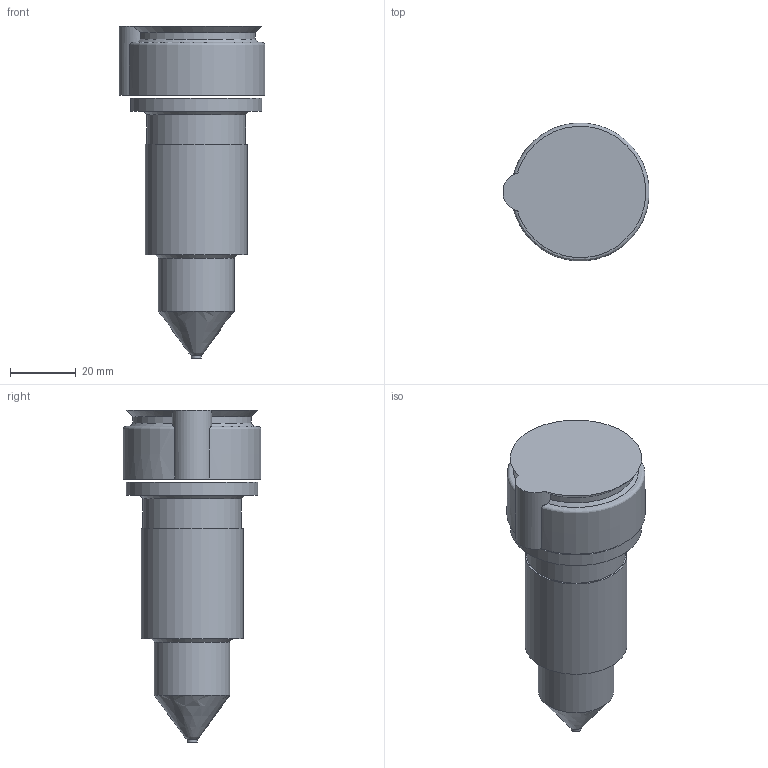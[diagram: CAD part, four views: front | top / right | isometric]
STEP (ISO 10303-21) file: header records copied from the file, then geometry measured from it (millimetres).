
FILE_DESCRIPTION(('STEP AP214'),'1');
FILE_NAME('SEDE IPS300-A.stp','2018-06-13T10:15:51',(' '),(' '),'Spatial InterOp 3D',' ',' ');
FILE_SCHEMA(('AUTOMOTIVE_DESIGN { 1 0 10303 214 1 1 1 1 }'));
Length unit declared in the file: millimetre
Products named in the file (1): 1
Bounding box: 44.4 x 41.9 x 101 mm (x, y, z)
Volume: 74940.4 mm3; surface area: 14527.3 mm2
Topology: 2 solids, 2 shells, 20 faces, 35 edges, 22 vertices
Faces by surface type: cylinder 7, plane 7, cone 4, revolution 2
Full cylindrical faces by diameter (mm): 3 x1, 23 x1, 30 x1, 31 x1, 40 x1
Entity records: 683 total; most frequent: CARTESIAN_POINT 141, DIRECTION 82, ORIENTED_EDGE 54, AXIS2_PLACEMENT_3D 39, EDGE_LOOP 31, EDGE_CURVE 27, FACE_OUTER_BOUND 26, VERTEX_POINT 22
